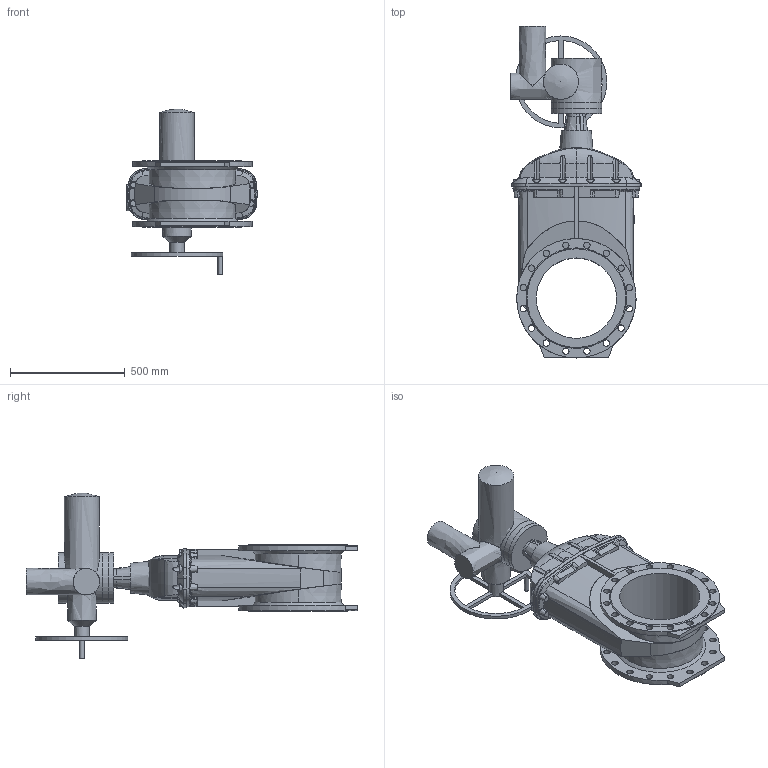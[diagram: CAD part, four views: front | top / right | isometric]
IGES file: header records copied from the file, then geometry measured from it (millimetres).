
Start section: SolidWorks IGES file using analytic representation for surfaces
Global section: file name: \\avksan2\techshare\PBM outline export from Enovia\O_15_40_DN350_X1X_SA14.6_AA0.igs; native system: SolidWorks 2012; preprocessor: SolidWorks 2012; author: pbm; date: 170320.131224; units: inch
Bounding box: 567 x 1445.5 x 721 mm (x, y, z)
Surface area: 2648000.6 mm2 (no closed solid volume)
Topology: 0 solids, 0 shells, 379 faces, 2211 edges, 2125 vertices
Faces by surface type: revolution 232, bspline 147
